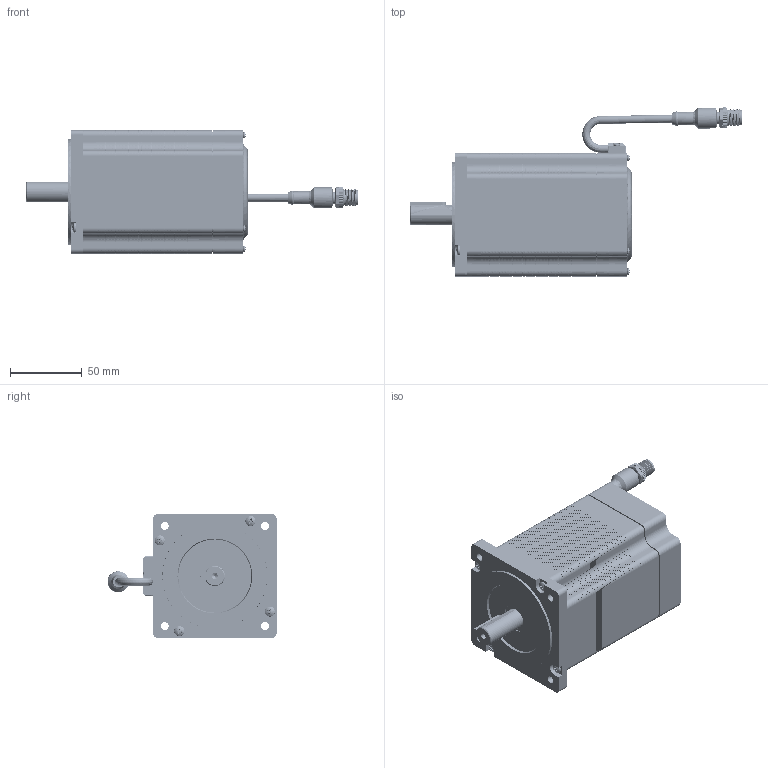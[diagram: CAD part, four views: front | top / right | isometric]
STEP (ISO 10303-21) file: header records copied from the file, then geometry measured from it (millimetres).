
FILE_DESCRIPTION (( 'STEP AP214' ), '1' );
FILE_NAME ('AB-SM-34-NB.STEP', '2024-09-26T18:10:52', ( '' ), ( '' ), 'SwSTEP 2.0', 'SolidWorks 2023', '' );
FILE_SCHEMA (( 'AUTOMOTIVE_DESIGN' ));
Length unit declared in the file: millimetre
Products named in the file (1): AB-SM-34-NB
Bounding box: 230.8 x 117.54 x 85.8 mm (x, y, z)
Surface area: 118911.5 mm2 (no closed solid volume)
Topology: 0 solids, 33 shells, 4567 faces, 12979 edges, 8621 vertices
Faces by surface type: bspline 4567
Entity records: 172157 total; most frequent: CARTESIAN_POINT 97143, ORIENTED_EDGE 25708, EDGE_CURVE 12959, B_SPLINE_CURVE_WITH_KNOTS 10885, VERTEX_POINT 8621, EDGE_LOOP 4773, ADVANCED_FACE 4567, FACE_OUTER_BOUND 4567
